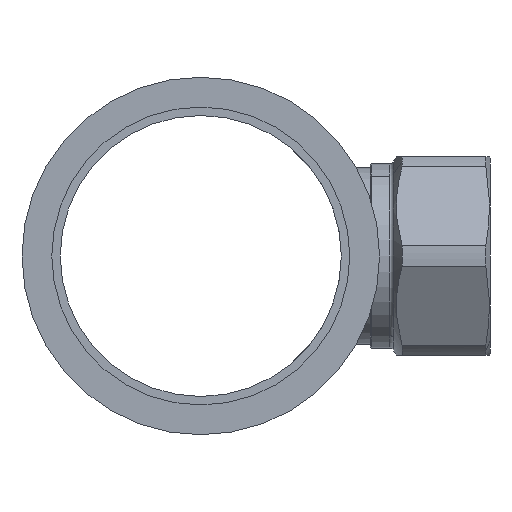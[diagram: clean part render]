
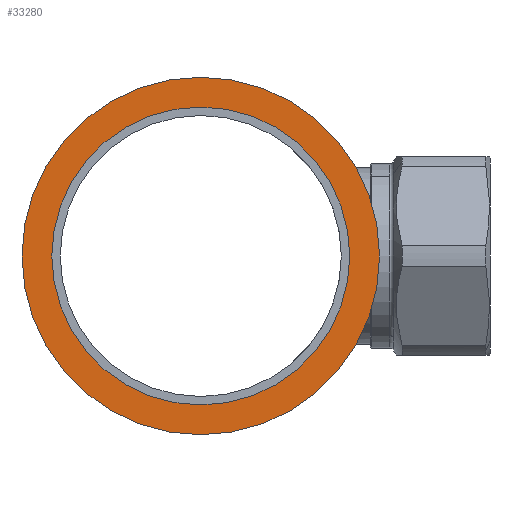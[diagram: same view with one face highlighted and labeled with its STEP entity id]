
A CAD part, left-side view. The second image highlights one B-rep face of the part: STEP entity #33280.
In plain terms, the highlighted planar face has unit normal (-1, 0, 0).
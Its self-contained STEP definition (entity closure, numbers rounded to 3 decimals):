
#32800=CARTESIAN_POINT('',(53.136,49.095,30.75));
#32810=VERTEX_POINT('',#32800);
#32890=CARTESIAN_POINT('',(53.136,49.095,-30.75));
#32900=VERTEX_POINT('',#32890);
#32930=CARTESIAN_POINT('',(53.136,49.095,
0.));
#32940=DIRECTION('',(1.,0.,0.));
#32950=DIRECTION('',(0.,0.,1.));
#32960=AXIS2_PLACEMENT_3D('',#32930,#32940,#32950);
#32970=CIRCLE('',#32960,30.75);
#32980=EDGE_CURVE('',#32900,#32810,#32970,.T.);
#33030=CARTESIAN_POINT('',(53.136,49.095,-35.85));
#33040=DIRECTION('',(1.,0.,0.));
#33050=DIRECTION('',(0.,0.,1.));
#33060=AXIS2_PLACEMENT_3D('',#33030,#33040,#33050);
#33070=PLANE('',#33060);
#33080=EDGE_CURVE('',#32810,#32900,#32970,.T.);
#33090=ORIENTED_EDGE('',*,*,#33080,.T.);
#33100=ORIENTED_EDGE('',*,*,#32980,.T.);
#33110=EDGE_LOOP('',(#33100,#33090));
#33120=FACE_BOUND('',#33110,.T.);
#33130=CARTESIAN_POINT('',(53.136,49.095,
0.));
#33140=DIRECTION('',(1.,0.,0.));
#33150=DIRECTION('',(0.,0.,-1.));
#33160=AXIS2_PLACEMENT_3D('',#33130,#33140,#33150);
#33170=CIRCLE('',#33160,36.9);
#33180=CARTESIAN_POINT('',(53.136,49.095,-36.9));
#33190=VERTEX_POINT('',#33180);
#33200=CARTESIAN_POINT('',(53.136,49.095,36.9));
#33210=VERTEX_POINT('',#33200);
#33220=EDGE_CURVE('',#33190,#33210,#33170,.T.);
#33230=ORIENTED_EDGE('',*,*,#33220,.F.);
#33240=EDGE_CURVE('',#33210,#33190,#33170,.T.);
#33250=ORIENTED_EDGE('',*,*,#33240,.F.);
#33260=EDGE_LOOP('',(#33250,#33230));
#33270=FACE_OUTER_BOUND('',#33260,.T.);
#33280=ADVANCED_FACE('',(#33120,#33270),#33070,.F.);
